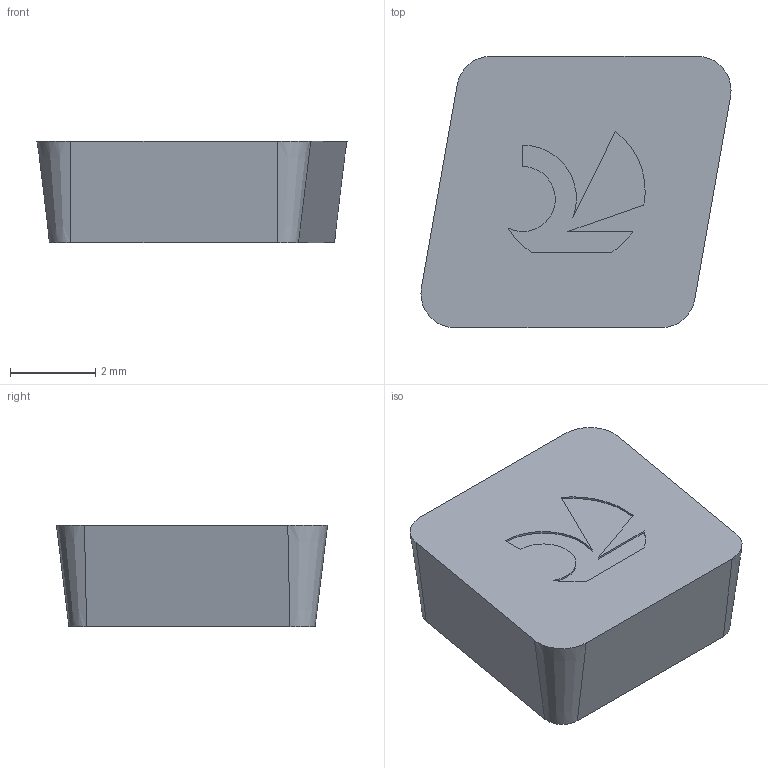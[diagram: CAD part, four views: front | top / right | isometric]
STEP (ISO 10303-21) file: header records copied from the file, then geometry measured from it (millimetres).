
FILE_DESCRIPTION(('no description'),'unknown implementation level');
FILE_NAME('solid0IQSFvvRU6USbYCZaPwuNQRrFJo_1.STP',' ',('CIMSOURCE GmbH'),('CADClick - KiM GmbH - www.kimweb.de'),'unknown preprocess','ACIS','unknown authorization');
FILE_SCHEMA(('automotive_design'));
Length unit declared in the file: millimetre
Products named in the file (1): CUT
Bounding box: 7.26 x 6.35 x 2.38 mm (x, y, z)
Volume: 87.6 mm3; surface area: 130.8 mm2
Topology: 1 solids, 1 shells, 22 faces, 57 edges, 38 vertices
Faces by surface type: plane 12, cylinder 6, cone 4
Entity records: 1366 total; most frequent: DIRECTION 127, CARTESIAN_POINT 120, STYLED_ITEM 118, PRESENTATION_STYLE_ASSIGNMENT 118, COLOUR_RGB 118, ORIENTED_EDGE 114, EDGE_CURVE 57, CURVE_STYLE 57
